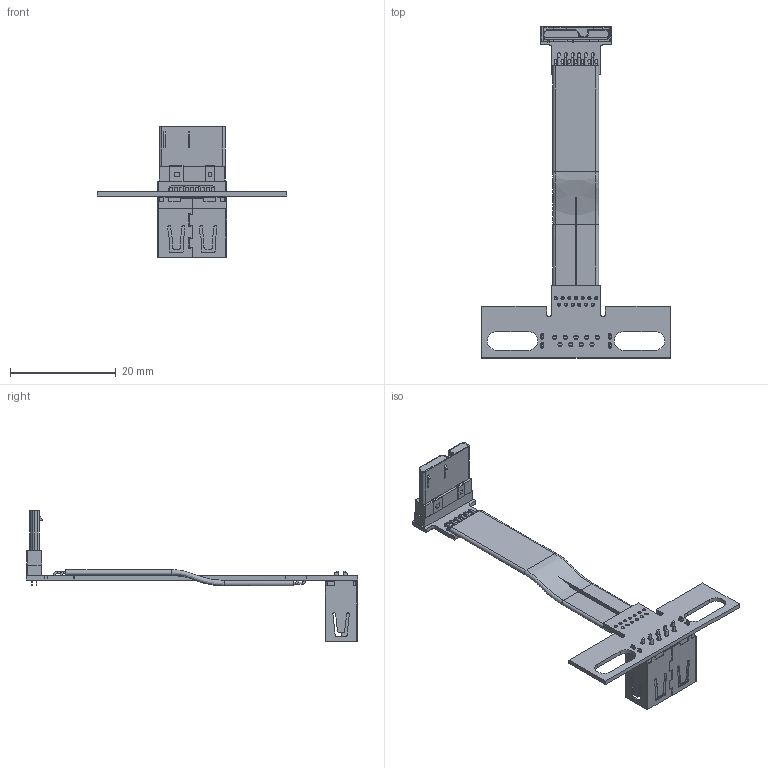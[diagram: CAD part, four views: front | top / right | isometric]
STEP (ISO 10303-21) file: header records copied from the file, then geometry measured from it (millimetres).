
FILE_DESCRIPTION(('Open CASCADE Model'),'2;1');
FILE_NAME('Open CASCADE Shape Model','2022-04-17T15:06:36',('Author'),( 'Open CASCADE'),'Open CASCADE STEP processor 6.8','Open CASCADE 6.8' ,'Unknown');
FILE_SCHEMA(('AUTOMOTIVE_DESIGN { 1 0 10303 214 1 1 1 1 }'));
Length unit declared in the file: millimetre
Products named in the file (53): PCB; Board; Open CASCADE STEP translator 6.8 17.1.1; _1; USB_20211129_(1); Designator22; micro_usb_3.0; Free-Models; cable13-US1A
Assembly tree (52 placements, depth 3):
  PCB
    Board
      Open CASCADE STEP translator 6.8 17.1.1
    _1
      USB_20211129_(1)
      USB_20211129_(1)
      USB_20211129_(1)
      USB_20211129_(1)
      USB_20211129_(1)
      USB_20211129_(1)
      USB_20211129_(1)
      USB_20211129_(1)
      USB_20211129_(1)
      USB_20211129_(1)
      USB_20211129_(1)
      USB_20211129_(1)
      USB_20211129_(1)
      USB_20211129_(1)
      USB_20211129_(1)
      USB_20211129_(1)
      USB_20211129_(1)
      USB_20211129_(1)
      USB_20211129_(1)
    Designator22
      micro_usb_3.0
    Free-Models
      cable13-US1A
      cable13-US1A
      cable13-US1A
      cable13-US1A
      cable13-US1A
      cable13-US1A
      cable13-US1A
      cable13-US1A
      cable13-US1A
      cable13-US1A
      cable13-US1A
      cable13-US1A
      cable13-US1A
      cable13-US1A
      cable13-US1A
      cable13-US1A
      cable13-US1A
      cable13-US1A
      cable13-US1A
      cable13-US1A
      cable13-US1A
      cable13-US1A
      cable13-US1A
      cable13-US1A
      cable13-US1A
      cable13-US1A
      cable13-US1A
Bounding box: 35.78 x 62.78 x 24.72 mm (x, y, z)
Volume: 1356.2 mm3; surface area: 4412.8 mm2
Topology: 48 solids, 48 shells, 1035 faces, 2663 edges, 1745 vertices
Faces by surface type: plane 612, cylinder 358, bspline 33, torus 26, extrusion 6
Full cylindrical faces by diameter (mm): 0.4 x59, 0.45 x10, 0.6 x26, 0.8 x9
Entity records: 42172 total; most frequent: CARTESIAN_POINT 7121, DIRECTION 5412, ORIENTED_EDGE 5326, EDGE_CURVE 2663, AXIS2_PLACEMENT_3D 1813, VECTOR 1786, LINE 1780, VERTEX_POINT 1745
